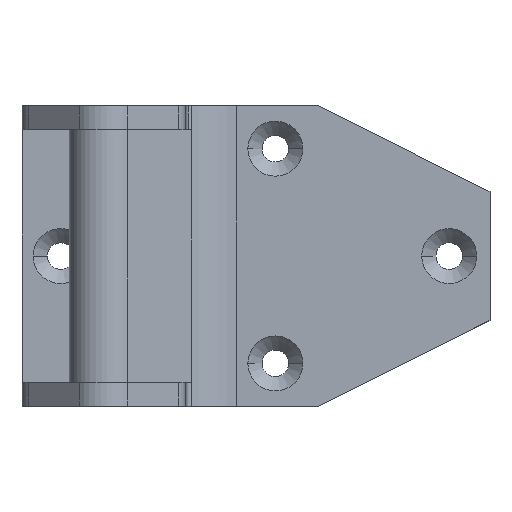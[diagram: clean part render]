
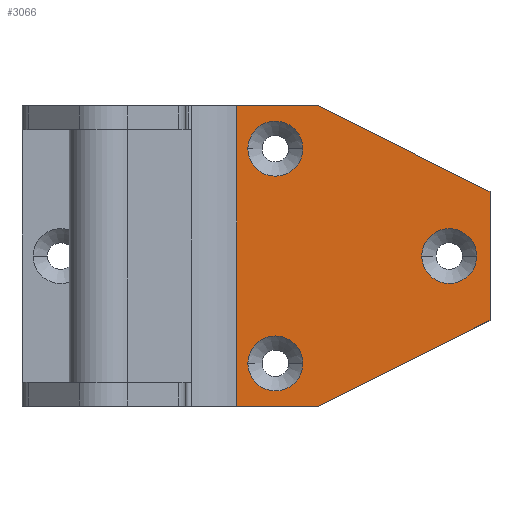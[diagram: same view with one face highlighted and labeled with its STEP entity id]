
A CAD part, top view. The second image highlights one B-rep face of the part: STEP entity #3066.
In plain terms, the highlighted planar face has unit normal (0, 0, 1).
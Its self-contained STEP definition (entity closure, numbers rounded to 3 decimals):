
#5 = CARTESIAN_POINT ( 'NONE',  ( 71., -15., 4.5 ) ) ;
#7 = ORIENTED_EDGE ( 'NONE', *, *, #369, .T. ) ;
#8 = EDGE_LOOP ( 'NONE', ( #386, #1966, #2529, #3392, #783, #444 ) ) ;
#24 = EDGE_LOOP ( 'NONE', ( #7, #3281 ) ) ;
#89 = AXIS2_PLACEMENT_3D ( 'NONE', #2949, #3980, #919 ) ;
#113 = PLANE ( 'NONE',  #2486 ) ;
#181 = AXIS2_PLACEMENT_3D ( 'NONE', #1312, #2686, #2713 ) ;
#230 = LINE ( 'NONE', #1649, #1074 ) ;
#286 = VECTOR ( 'NONE', #2854, 1000. ) ;
#322 = CARTESIAN_POINT ( 'NONE',  ( 14.6, -25., 4.5 ) ) ;
#324 = CARTESIAN_POINT ( 'NONE',  ( 21., 25., 4.5 ) ) ;
#344 = EDGE_CURVE ( 'NONE', #1940, #2236, #3005, .T. ) ;
#369 = EDGE_CURVE ( 'NONE', #2174, #3429, #1543, .T. ) ;
#386 = ORIENTED_EDGE ( 'NONE', *, *, #3941, .T. ) ;
#437 = FACE_OUTER_BOUND ( 'NONE', #8, .T. ) ;
#444 = ORIENTED_EDGE ( 'NONE', *, *, #344, .T. ) ;
#471 = VECTOR ( 'NONE', #1024, 1000. ) ;
#566 = AXIS2_PLACEMENT_3D ( 'NONE', #324, #3351, #1336 ) ;
#573 = VERTEX_POINT ( 'NONE', #3648 ) ;
#663 = DIRECTION ( 'NONE',  ( 1., 0., 0. ) ) ;
#783 = ORIENTED_EDGE ( 'NONE', *, *, #4051, .T. ) ;
#790 = CIRCLE ( 'NONE', #89, 6.4 ) ;
#799 = CARTESIAN_POINT ( 'NONE',  ( 55.1, 0., 4.5 ) ) ;
#822 = VERTEX_POINT ( 'NONE', #3962 ) ;
#895 = CARTESIAN_POINT ( 'NONE',  ( 12.027, 35., 4.5 ) ) ;
#897 = CARTESIAN_POINT ( 'NONE',  ( 71., -15., 4.5 ) ) ;
#919 = DIRECTION ( 'NONE',  ( -1., 0., 0. ) ) ;
#933 = CARTESIAN_POINT ( 'NONE',  ( 31., -35., 4.5 ) ) ;
#956 = CIRCLE ( 'NONE', #181, 6.4 ) ;
#958 = EDGE_CURVE ( 'NONE', #3596, #822, #956, .T. ) ;
#1022 = EDGE_CURVE ( 'NONE', #2243, #3370, #4281, .T. ) ;
#1024 = DIRECTION ( 'NONE',  ( 0.894, 0.447, 0. ) ) ;
#1051 = ORIENTED_EDGE ( 'NONE', *, *, #3141, .T. ) ;
#1074 = VECTOR ( 'NONE', #663, 1000. ) ;
#1116 = VERTEX_POINT ( 'NONE', #1479 ) ;
#1166 = CARTESIAN_POINT ( 'NONE',  ( 71., 15., 4.5 ) ) ;
#1179 = EDGE_CURVE ( 'NONE', #3370, #1887, #230, .T. ) ;
#1275 = AXIS2_PLACEMENT_3D ( 'NONE', #2156, #3150, #2522 ) ;
#1312 = CARTESIAN_POINT ( 'NONE',  ( 21., -25., 4.5 ) ) ;
#1330 = EDGE_LOOP ( 'NONE', ( #2783, #1051 ) ) ;
#1336 = DIRECTION ( 'NONE',  ( 1., 0., 0. ) ) ;
#1345 = ORIENTED_EDGE ( 'NONE', *, *, #1953, .T. ) ;
#1348 = LINE ( 'NONE', #933, #471 ) ;
#1479 = CARTESIAN_POINT ( 'NONE',  ( 27.4, 25., 4.5 ) ) ;
#1489 = CIRCLE ( 'NONE', #566, 6.4 ) ;
#1543 = CIRCLE ( 'NONE', #1770, 6.4 ) ;
#1649 = CARTESIAN_POINT ( 'NONE',  ( 12.027, 35., 4.5 ) ) ;
#1674 = CARTESIAN_POINT ( 'NONE',  ( 67.9, 0., 4.5 ) ) ;
#1689 = DIRECTION ( 'NONE',  ( 0., 1., 0. ) ) ;
#1737 = CARTESIAN_POINT ( 'NONE',  ( 61.5, 0., 4.5 ) ) ;
#1770 = AXIS2_PLACEMENT_3D ( 'NONE', #1737, #3706, #2673 ) ;
#1774 = FACE_BOUND ( 'NONE', #3001, .T. ) ;
#1776 = EDGE_CURVE ( 'NONE', #3429, #2174, #3858, .T. ) ;
#1852 = CARTESIAN_POINT ( 'NONE',  ( 31., -35., 4.5 ) ) ;
#1855 = VERTEX_POINT ( 'NONE', #1852 ) ;
#1887 = VERTEX_POINT ( 'NONE', #4307 ) ;
#1940 = VERTEX_POINT ( 'NONE', #897 ) ;
#1953 = EDGE_CURVE ( 'NONE', #573, #1116, #790, .T. ) ;
#1966 = ORIENTED_EDGE ( 'NONE', *, *, #1179, .F. ) ;
#2117 = EDGE_CURVE ( 'NONE', #1116, #573, #1489, .T. ) ;
#2156 = CARTESIAN_POINT ( 'NONE',  ( 61.5, 0., 4.5 ) ) ;
#2162 = CARTESIAN_POINT ( 'NONE',  ( 71., 35., 4.5 ) ) ;
#2174 = VERTEX_POINT ( 'NONE', #799 ) ;
#2236 = VERTEX_POINT ( 'NONE', #2781 ) ;
#2243 = VERTEX_POINT ( 'NONE', #3803 ) ;
#2486 = AXIS2_PLACEMENT_3D ( 'NONE', #2162, #4175, #3879 ) ;
#2508 = FACE_BOUND ( 'NONE', #1330, .T. ) ;
#2522 = DIRECTION ( 'NONE',  ( 1., 0., 0. ) ) ;
#2529 = ORIENTED_EDGE ( 'NONE', *, *, #1022, .F. ) ;
#2538 = CARTESIAN_POINT ( 'NONE',  ( 12.027, -35., 4.5 ) ) ;
#2551 = ORIENTED_EDGE ( 'NONE', *, *, #2117, .T. ) ;
#2594 = CIRCLE ( 'NONE', #3228, 6.4 ) ;
#2661 = DIRECTION ( 'NONE',  ( 0., 0., -1. ) ) ;
#2673 = DIRECTION ( 'NONE',  ( -1., 0., 0. ) ) ;
#2686 = DIRECTION ( 'NONE',  ( 0., 0., -1. ) ) ;
#2713 = DIRECTION ( 'NONE',  ( -1., 0., 0. ) ) ;
#2781 = CARTESIAN_POINT ( 'NONE',  ( 71., 15., 4.5 ) ) ;
#2783 = ORIENTED_EDGE ( 'NONE', *, *, #958, .T. ) ;
#2817 = FACE_BOUND ( 'NONE', #24, .T. ) ;
#2854 = DIRECTION ( 'NONE',  ( 1., 0., 0. ) ) ;
#2921 = LINE ( 'NONE', #1166, #3469 ) ;
#2949 = CARTESIAN_POINT ( 'NONE',  ( 21., 25., 4.5 ) ) ;
#3001 = EDGE_LOOP ( 'NONE', ( #1345, #2551 ) ) ;
#3005 = LINE ( 'NONE', #5, #3413 ) ;
#3056 = EDGE_CURVE ( 'NONE', #2243, #1855, #3477, .T. ) ;
#3066 = ADVANCED_FACE ( 'NONE', ( #437, #2508, #1774, #2817 ), #113, .T. ) ;
#3141 = EDGE_CURVE ( 'NONE', #822, #3596, #2594, .T. ) ;
#3150 = DIRECTION ( 'NONE',  ( 0., 0., -1. ) ) ;
#3227 = DIRECTION ( 'NONE',  ( -0.894, 0.447, 0. ) ) ;
#3228 = AXIS2_PLACEMENT_3D ( 'NONE', #4080, #2661, #3741 ) ;
#3281 = ORIENTED_EDGE ( 'NONE', *, *, #1776, .T. ) ;
#3351 = DIRECTION ( 'NONE',  ( 0., 0., -1. ) ) ;
#3370 = VERTEX_POINT ( 'NONE', #895 ) ;
#3392 = ORIENTED_EDGE ( 'NONE', *, *, #3056, .T. ) ;
#3413 = VECTOR ( 'NONE', #1689, 1000. ) ;
#3429 = VERTEX_POINT ( 'NONE', #1674 ) ;
#3469 = VECTOR ( 'NONE', #3227, 1000. ) ;
#3477 = LINE ( 'NONE', #3859, #286 ) ;
#3595 = VECTOR ( 'NONE', #4257, 1000. ) ;
#3596 = VERTEX_POINT ( 'NONE', #322 ) ;
#3648 = CARTESIAN_POINT ( 'NONE',  ( 14.6, 25., 4.5 ) ) ;
#3706 = DIRECTION ( 'NONE',  ( 0., 0., -1. ) ) ;
#3741 = DIRECTION ( 'NONE',  ( 1., 0., 0. ) ) ;
#3803 = CARTESIAN_POINT ( 'NONE',  ( 12.027, -35., 4.5 ) ) ;
#3858 = CIRCLE ( 'NONE', #1275, 6.4 ) ;
#3859 = CARTESIAN_POINT ( 'NONE',  ( 12.027, -35., 4.5 ) ) ;
#3879 = DIRECTION ( 'NONE',  ( 1., 0., 0. ) ) ;
#3941 = EDGE_CURVE ( 'NONE', #2236, #1887, #2921, .T. ) ;
#3962 = CARTESIAN_POINT ( 'NONE',  ( 27.4, -25., 4.5 ) ) ;
#3980 = DIRECTION ( 'NONE',  ( 0., 0., -1. ) ) ;
#4051 = EDGE_CURVE ( 'NONE', #1855, #1940, #1348, .T. ) ;
#4080 = CARTESIAN_POINT ( 'NONE',  ( 21., -25., 4.5 ) ) ;
#4175 = DIRECTION ( 'NONE',  ( 0., 0., 1. ) ) ;
#4257 = DIRECTION ( 'NONE',  ( 0., 1., 0. ) ) ;
#4281 = LINE ( 'NONE', #2538, #3595 ) ;
#4307 = CARTESIAN_POINT ( 'NONE',  ( 31., 35., 4.5 ) ) ;
